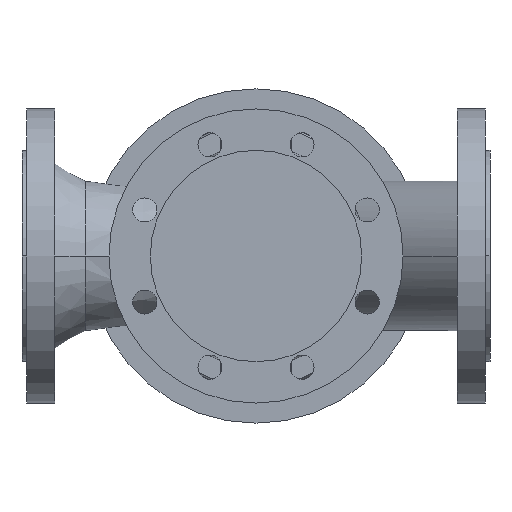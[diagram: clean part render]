
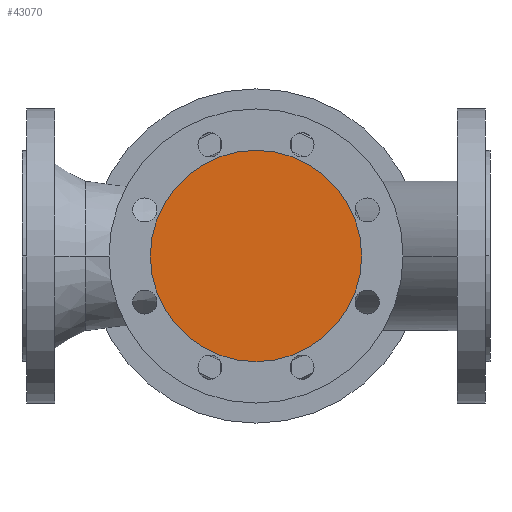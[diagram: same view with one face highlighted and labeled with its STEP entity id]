
A CAD part, front view. The second image highlights one B-rep face of the part: STEP entity #43070.
In plain terms, the highlighted planar face has unit normal (0, -1, 0).
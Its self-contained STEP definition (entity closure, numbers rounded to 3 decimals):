
#4400=CARTESIAN_POINT('',(254.,-150.,0.));
#4410=VERTEX_POINT('',#4400);
#4440=CARTESIAN_POINT('',(175.,-150.,0.));
#4450=DIRECTION('',(0.,1.,0.));
#4460=DIRECTION('',(1.,0.,0.));
#4470=AXIS2_PLACEMENT_3D('',#4440,#4450,#4460);
#4480=CIRCLE('',#4470,79.);
#4490=CARTESIAN_POINT('',(96.,-150.,0.));
#4500=VERTEX_POINT('',#4490);
#4510=EDGE_CURVE('',#4500,#4410,#4480,.T.);
#42970=CARTESIAN_POINT('',(214.5,-150.,0.));
#42980=DIRECTION('',(0.,-1.,0.));
#42990=DIRECTION('',(-1.,0.,0.));
#43000=AXIS2_PLACEMENT_3D('',#42970,#42980,#42990);
#43010=PLANE('',#43000);
#43020=ORIENTED_EDGE('',*,*,#4510,.F.);
#43030=EDGE_CURVE('',#4410,#4500,#4480,.T.);
#43040=ORIENTED_EDGE('',*,*,#43030,.F.);
#43050=EDGE_LOOP('',(#43040,#43020));
#43060=FACE_OUTER_BOUND('',#43050,.T.);
#43070=ADVANCED_FACE('',(#43060),#43010,.T.);
